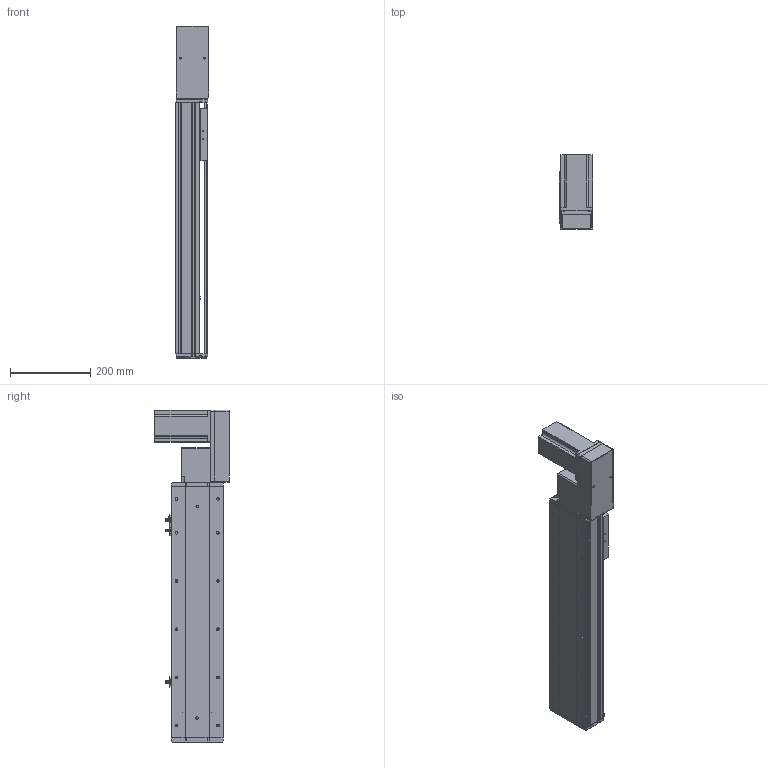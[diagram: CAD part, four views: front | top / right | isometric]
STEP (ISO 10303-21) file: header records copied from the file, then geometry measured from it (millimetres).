
FILE_DESCRIPTION (( 'STEP AP214' ), '1' );
FILE_NAME ('KSD130B-S400-MLB-CM.STEP', '2019-09-19T06:26:22', ( '微软用户' ), ( '微软中国' ), 'SwSTEP 2.0', 'SolidWorks 2014', '' );
FILE_SCHEMA (( 'AUTOMOTIVE_DESIGN' ));
Length unit declared in the file: millimetre
Products named in the file (12): 130宽模组保护罩上下左右折-同步带; 130宽模组马达安装板连板左右折同步带; 覜茼え100遵圉猾敕; U倰嫖萇EEㄜSX672; 130宽盖板半封闭同步带-400行程; 130宽马达安装板同步带左-改; 130宽马达安装板同步带半封闭; 130宽同步带安装座半封闭; 130宽端盖同步带半封闭; 130宽底板半封闭同步带-400行程; KSD130B-S400-MLB-CM; 台达ECMA－C20807AS伺服电机
Assembly tree (13 placements, depth 2):
  KSD130B-S400-MLB-CM
    130宽底板半封闭同步带-400行程
    130宽端盖同步带半封闭
    130宽同步带安装座半封闭
    130宽马达安装板同步带半封闭
    130宽马达安装板同步带左-改
    130宽盖板半封闭同步带-400行程
    U倰嫖萇EEㄜSX672  x3
    覜茼え100遵圉猾敕
    130宽模组马达安装板连板左右折同步带
    130宽模组保护罩上下左右折-同步带
    台达ECMA－C20807AS伺服电机
Bounding box: 82.5 x 184.8 x 827 mm (x, y, z)
Volume: 3369467.6 mm3; surface area: 865093.9 mm2
Topology: 14 solids, 14 shells, 1389 faces, 3901 edges, 2511 vertices
Faces by surface type: cylinder 648, plane 606, cone 135
Entity records: 44247 total; most frequent: CARTESIAN_POINT 7892, DIRECTION 6795, ORIENTED_EDGE 6518, EDGE_CURVE 3259, AXIS2_PLACEMENT_3D 2454, VERTEX_POINT 2135, LINE 1887, VECTOR 1887
